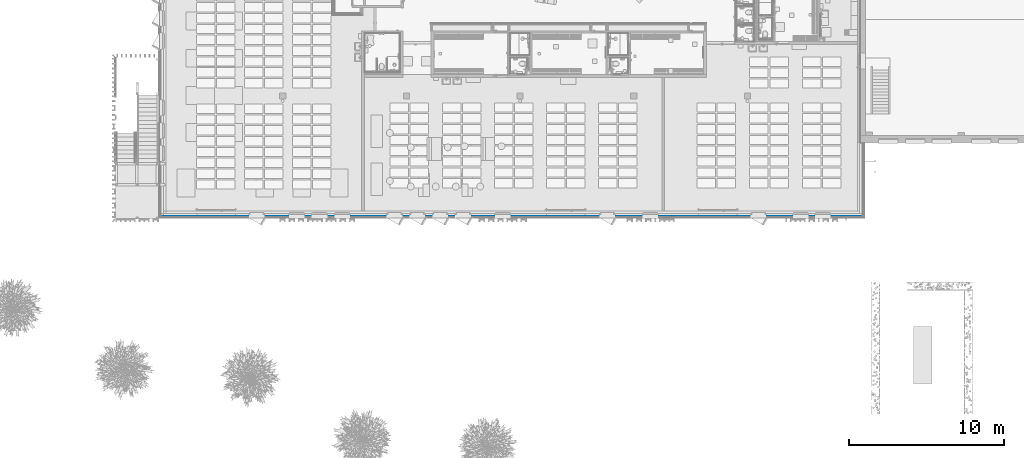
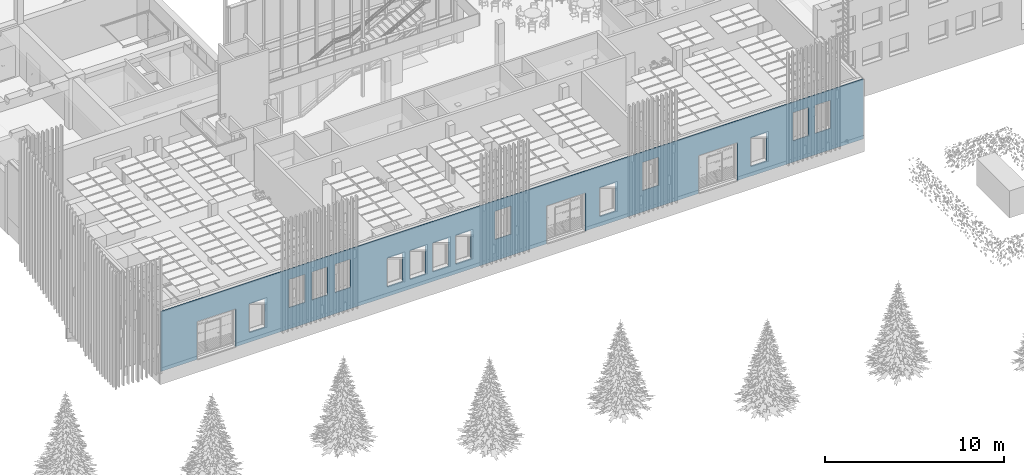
# One storey, part 178 of 301: 1 building element part, 20 openings, 1 element without a shape of its own.
"""IFC2X3 building model written with IfcOpenShell, lengths in millimetres."""

from ifc_helpers import new_model, entity, si_unit, converted_unit, derived_unit, money_unit, direction, frame, origin_with_axes, place, context, subcontext, project, spatial, faceted_brep, material, type_object, element, aggregate, save


model = new_model("IFC2X3")

# Units and contexts
model_context = context("Model", 3, precision=0.01, world=origin_with_axes(), true_north=direction((0.0, 1.0)))
body_context = subcontext(model_context, "Body", "Model", "MODEL_VIEW")
ifc_project = project(units=[si_unit("LENGTHUNIT", "METRE", prefix="MILLI"), si_unit("AREAUNIT", "SQUARE_METRE"), si_unit("VOLUMEUNIT", "CUBIC_METRE"), converted_unit("PLANEANGLEUNIT", "DEGREE", entity("IfcPlaneAngleMeasure", 0.0174532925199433), si_unit("PLANEANGLEUNIT", "RADIAN"), dimensions=[0, 0, 0, 0, 0, 0, 0]), money_unit("EUR"), converted_unit("TIMEUNIT", "Year", entity("IfcTimeMeasure", 31557600.0), si_unit("TIMEUNIT", "SECOND"), dimensions=[0, 0, 1, 0, 0, 0, 0]), si_unit("MASSUNIT", "GRAM", prefix="KILO"), si_unit("THERMODYNAMICTEMPERATUREUNIT", "DEGREE_CELSIUS"), si_unit("LUMINOUSINTENSITYUNIT", "LUMEN"), si_unit("ENERGYUNIT", "JOULE", prefix="MEGA"), derived_unit("THERMALCONDUCTANCEUNIT", [(si_unit("POWERUNIT", "WATT"), 1), (si_unit("LENGTHUNIT", "METRE"), -1), (si_unit("THERMODYNAMICTEMPERATUREUNIT", "KELVIN"), -1)]), derived_unit("SPECIFICHEATCAPACITYUNIT", [(si_unit("ENERGYUNIT", "JOULE"), 1), (si_unit("MASSUNIT", "GRAM", prefix="KILO"), -1), (si_unit("THERMODYNAMICTEMPERATUREUNIT", "KELVIN"), -1)]), derived_unit("MASSDENSITYUNIT", [(si_unit("MASSUNIT", "GRAM", prefix="KILO"), 1), (si_unit("VOLUMEUNIT", "CUBIC_METRE"), -1)])], contexts=[model_context])

# Site, building, storey
site_placement = place(None, frame((0.0, 0.0, 8650.0), z_axis=(0.0, 0.0, 1.0), x_axis=(1.0, 0.0, 0.0)))
site = spatial("IfcSite", under=ifc_project, at=site_placement, Name="43301:001:0844", CompositionType="ELEMENT")
building_placement = place(site_placement, origin_with_axes())
building = spatial("IfcBuilding", under=site, at=building_placement, Name="Kuressaare Ametikooli tuulikute mehaanikute õppekorpus", CompositionType="ELEMENT")
storey_placement = place(building_placement, origin_with_axes())
storey = spatial("IfcBuildingStorey", under=building, at=storey_placement, Name="1.korrus", CompositionType="ELEMENT", Elevation=0.0)

# Wall, openings, building element part
wall_type = type_object("IfcWallType", Name="VS1 437", PredefinedType="NOTDEFINED")
wall_placement = place(storey_placement, frame((133024.9464416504, 9123.838490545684, 0.0), z_axis=(0.0, 0.0, 1.0), x_axis=(-1.0, 0.0, 0.0)))
wall = element("IfcWall", 1, at=wall_placement, inside=storey, type_object=wall_type, Name="Sisesein")
opening_1_placement = place(wall_placement, frame((26976.99415685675, 0.0, 700.0), z_axis=(0.0, 0.0, 1.0), x_axis=(1.0, 0.0, 0.0)))
element("IfcOpeningElement", 2, at=opening_1_placement, cuts=wall, Name="A-1g", context=body_context, shape_type="Brep", body=[
    faceted_brep([(-504.9999999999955, 219.9999999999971, 0.0), (-504.9999999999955, 219.9999999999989, 1910.0), (-504.9999999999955, 437.9999999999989, 1910.0), (-504.9999999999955, 437.9999999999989, 0.0), (-504.9999999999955, -1.000000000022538, 0.0), (-504.9999999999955, -1.000000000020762, 1910.0), (504.9999999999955, 219.9999999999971, 1910.0), (504.9999999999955, 437.9999999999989, 1910.0), (504.9999999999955, -1.000000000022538, 1910.0), (504.9999999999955, 437.9999999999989, 0.0), (504.9999999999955, 219.9999999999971, 0.0), (504.9999999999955, -1.000000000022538, 0.0)], [[[0, 1, 2, 3]], [[1, 0, 4, 5]], [[6, 7, 2, 1, 5, 8]], [[7, 9, 3, 2]], [[0, 3, 9, 10, 11, 4]], [[5, 4, 11, 8]], [[6, 10, 9, 7]], [[10, 6, 8, 11]]]),
])
opening_2_placement = place(wall_placement, frame((29926.99415685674, 0.0, 700.0000000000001), z_axis=(0.0, 0.0, 1.0), x_axis=(1.0, 0.0, 0.0)))
element("IfcOpeningElement", 3, at=opening_2_placement, cuts=wall, Name="A-1g", context=body_context, shape_type="Brep", body=[
    faceted_brep([(-504.9999999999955, 219.9999999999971, 0.0), (-504.9999999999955, 219.9999999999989, 1910.0), (-504.9999999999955, 437.9999999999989, 1910.0), (-504.9999999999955, 437.9999999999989, 0.0), (-504.9999999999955, -1.000000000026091, 0.0), (-504.9999999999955, -1.000000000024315, 1910.0), (504.9999999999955, 219.9999999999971, 1910.0), (504.9999999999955, 437.9999999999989, 1910.0), (504.9999999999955, -1.000000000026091, 1910.0), (504.9999999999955, 437.9999999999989, 0.0), (504.9999999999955, 219.9999999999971, 0.0), (504.9999999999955, -1.000000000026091, 0.0)], [[[0, 1, 2, 3]], [[1, 0, 4, 5]], [[6, 7, 2, 1, 5, 8]], [[7, 9, 3, 2]], [[0, 3, 9, 10, 11, 4]], [[5, 4, 11, 8]], [[6, 10, 9, 7]], [[10, 6, 8, 11]]]),
])
opening_3_placement = place(wall_placement, frame((2241.190539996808, 0.0, 1475.000000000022), z_axis=(0.0, 0.0, 1.0), x_axis=(1.0, 0.0, 0.0)))
element("IfcOpeningElement", 4, at=opening_3_placement, cuts=wall, Name="A-1g,SE", context=body_context, shape_type="Brep", body=[
    faceted_brep([(-504.9999999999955, 220.0000000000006, 0.0), (-504.9999999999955, 220.0000000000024, 1910.0), (-504.9999999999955, 437.9999999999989, 1910.0), (-504.9999999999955, 437.9999999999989, 0.0), (-504.9999999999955, -1.000000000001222, 0.0), (-504.9999999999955, -0.9999999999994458, 1910.0), (504.9999999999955, 220.0000000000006, 1910.0), (504.9999999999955, 437.9999999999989, 1910.0), (504.9999999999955, -1.000000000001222, 1910.0), (504.9999999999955, 437.9999999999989, 0.0), (504.9999999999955, 220.0000000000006, 0.0), (504.9999999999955, -1.000000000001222, 0.0)], [[[0, 1, 2, 3]], [[1, 0, 4, 5]], [[6, 7, 2, 1, 5, 8]], [[7, 9, 3, 2]], [[0, 3, 9, 10, 11, 4]], [[5, 4, 11, 8]], [[6, 10, 9, 7]], [[10, 6, 8, 11]]]),
])
opening_4_placement = place(wall_placement, frame((13381.72835363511, 0.0, 1475.000000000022), z_axis=(0.0, 0.0, 1.0), x_axis=(1.0, 0.0, 0.0)))
element("IfcOpeningElement", 5, at=opening_4_placement, cuts=wall, Name="A-1g,SE", context=body_context, shape_type="Brep", body=[
    faceted_brep([(-504.9999999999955, 219.9999999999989, 0.0), (-504.9999999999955, 220.0000000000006, 1910.0), (-504.9999999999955, 437.9999999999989, 1910.0), (-504.9999999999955, 437.9999999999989, 0.0), (-504.9999999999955, -1.000000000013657, 0.0), (-504.9999999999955, -1.00000000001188, 1910.0), (504.9999999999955, 219.9999999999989, 1910.0), (504.9999999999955, 437.9999999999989, 1910.0), (504.9999999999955, -1.000000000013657, 1910.0), (504.9999999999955, 437.9999999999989, 0.0), (504.9999999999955, 219.9999999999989, 0.0), (504.9999999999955, -1.000000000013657, 0.0)], [[[0, 1, 2, 3]], [[1, 0, 4, 5]], [[6, 7, 2, 1, 5, 8]], [[7, 9, 3, 2]], [[0, 3, 9, 10, 11, 4]], [[5, 4, 11, 8]], [[6, 10, 9, 7]], [[10, 6, 8, 11]]]),
])
opening_5_placement = place(wall_placement, frame((25501.99415685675, 0.0, 700.0), z_axis=(0.0, 0.0, 1.0), x_axis=(1.0, 0.0, 0.0)))
element("IfcOpeningElement", 6, at=opening_5_placement, cuts=wall, Name="A-1g", context=body_context, shape_type="Brep", body=[
    faceted_brep([(-504.9999999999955, 219.9999999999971, 0.0), (-504.9999999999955, 219.9999999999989, 1910.0), (-504.9999999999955, 437.9999999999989, 1910.0), (-504.9999999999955, 437.9999999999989, 0.0), (-504.9999999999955, -1.000000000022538, 0.0), (-504.9999999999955, -1.000000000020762, 1910.0), (504.9999999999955, 219.9999999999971, 1910.0), (504.9999999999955, 437.9999999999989, 1910.0), (504.9999999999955, -1.000000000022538, 1910.0), (504.9999999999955, 437.9999999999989, 0.0), (504.9999999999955, 219.9999999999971, 0.0), (504.9999999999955, -1.000000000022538, 0.0)], [[[0, 1, 2, 3]], [[1, 0, 4, 5]], [[6, 7, 2, 1, 5, 8]], [[7, 9, 3, 2]], [[0, 3, 9, 10, 11, 4]], [[5, 4, 11, 8]], [[6, 10, 9, 7]], [[10, 6, 8, 11]]]),
])
opening_6_placement = place(wall_placement, frame((6401.877929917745, 0.0, 700.0), z_axis=(0.0, 0.0, 1.0), x_axis=(1.0, 0.0, 0.0)))
element("IfcOpeningElement", 7, at=opening_6_placement, cuts=wall, Name="A-1g", context=body_context, shape_type="Brep", body=[
    faceted_brep([(-504.9999999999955, 220.0000000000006, 0.0), (-504.9999999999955, 220.0000000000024, 1910.0), (-504.9999999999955, 437.9999999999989, 1910.0), (-504.9999999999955, 437.9999999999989, 0.0), (-504.9999999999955, -1.000000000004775, 0.0), (-504.9999999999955, -1.000000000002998, 1910.0), (504.9999999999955, 220.0000000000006, 1910.0), (504.9999999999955, 437.9999999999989, 1910.0), (504.9999999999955, -1.000000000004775, 1910.0), (504.9999999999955, 437.9999999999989, 0.0), (504.9999999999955, 220.0000000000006, 0.0), (504.9999999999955, -1.000000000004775, 0.0)], [[[0, 1, 2, 3]], [[1, 0, 4, 5]], [[6, 7, 2, 1, 5, 8]], [[7, 9, 3, 2]], [[0, 3, 9, 10, 11, 4]], [[5, 4, 11, 8]], [[6, 10, 9, 7]], [[10, 6, 8, 11]]]),
])
opening_7_placement = place(wall_placement, frame((22926.99691245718, 0.0, 1475.000000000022), z_axis=(0.0, 0.0, 1.0), x_axis=(1.0, 0.0, 0.0)))
element("IfcOpeningElement", 8, at=opening_7_placement, cuts=wall, Name="A-1g,SE", context=body_context, shape_type="Brep", body=[
    faceted_brep([(-504.9999999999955, 219.9999999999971, 0.0), (-504.9999999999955, 219.9999999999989, 1910.0), (-504.9999999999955, 437.9999999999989, 1910.0), (-504.9999999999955, 437.9999999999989, 0.0), (-504.9999999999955, -1.000000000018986, 0.0), (-504.9999999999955, -1.000000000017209, 1910.0), (504.9999999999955, 219.9999999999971, 1910.0), (504.9999999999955, 437.9999999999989, 1910.0), (504.9999999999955, -1.000000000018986, 1910.0), (504.9999999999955, 437.9999999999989, 0.0), (504.9999999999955, 219.9999999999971, 0.0), (504.9999999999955, -1.000000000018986, 0.0)], [[[0, 1, 2, 3]], [[1, 0, 4, 5]], [[6, 7, 2, 1, 5, 8]], [[7, 9, 3, 2]], [[0, 3, 9, 10, 11, 4]], [[5, 4, 11, 8]], [[6, 10, 9, 7]], [[10, 6, 8, 11]]]),
])
opening_8_placement = place(wall_placement, frame((38843.87792991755, 0.0, 700.0), z_axis=(0.0, 0.0, 1.0), x_axis=(1.0, 0.0, 0.0)))
element("IfcOpeningElement", 9, at=opening_8_placement, cuts=wall, Name="A-1g", context=body_context, shape_type="Brep", body=[
    faceted_brep([(-504.9999999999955, 219.9999999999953, 0.0), (-504.9999999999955, 219.9999999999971, 1910.0), (-504.9999999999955, 437.9999999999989, 1910.0), (-504.9999999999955, 437.9999999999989, 0.0), (-504.9999999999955, -1.000000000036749, 0.0), (-504.9999999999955, -1.000000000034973, 1910.0), (504.9999999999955, 219.9999999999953, 1910.0), (504.9999999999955, 437.9999999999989, 1910.0), (504.9999999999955, -1.000000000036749, 1910.0), (504.9999999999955, 437.9999999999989, 0.0), (504.9999999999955, 219.9999999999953, 0.0), (504.9999999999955, -1.000000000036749, 0.0)], [[[0, 1, 2, 3]], [[1, 0, 4, 5]], [[6, 7, 2, 1, 5, 8]], [[7, 9, 3, 2]], [[0, 3, 9, 10, 11, 4]], [[5, 4, 11, 8]], [[6, 10, 9, 7]], [[10, 6, 8, 11]]]),
])
opening_9_placement = place(wall_placement, frame((16176.99691245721, 0.0, 700.0), z_axis=(0.0, 0.0, 1.0), x_axis=(1.0, 0.0, 0.0)))
element("IfcOpeningElement", 10, at=opening_9_placement, cuts=wall, Name="A-1g", context=body_context, shape_type="Brep", body=[
    faceted_brep([(-504.9999999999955, 219.9999999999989, 0.0), (-504.9999999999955, 220.0000000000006, 1910.0), (-504.9999999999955, 437.9999999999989, 1910.0), (-504.9999999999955, 437.9999999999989, 0.0), (-504.9999999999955, -1.000000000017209, 0.0), (-504.9999999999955, -1.000000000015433, 1910.0), (504.9999999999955, 219.9999999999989, 1910.0), (504.9999999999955, 437.9999999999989, 1910.0), (504.9999999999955, -1.000000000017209, 1910.0), (504.9999999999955, 437.9999999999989, 0.0), (504.9999999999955, 219.9999999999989, 0.0), (504.9999999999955, -1.000000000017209, 0.0)], [[[0, 1, 2, 3]], [[1, 0, 4, 5]], [[6, 7, 2, 1, 5, 8]], [[7, 9, 3, 2]], [[0, 3, 9, 10, 11, 4]], [[5, 4, 11, 8]], [[6, 10, 9, 7]], [[10, 6, 8, 11]]]),
])
opening_10_placement = place(wall_placement, frame((3661.862783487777, 0.0, 1475.000000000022), z_axis=(0.0, 0.0, 1.0), x_axis=(1.0, 0.0, 0.0)))
element("IfcOpeningElement", 11, at=opening_10_placement, cuts=wall, Name="A-1g,SE", context=body_context, shape_type="Brep", body=[
    faceted_brep([(-504.9999999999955, 220.0000000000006, 0.0), (-504.9999999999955, 220.0000000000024, 1910.0), (-504.9999999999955, 437.9999999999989, 1910.0), (-504.9999999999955, 437.9999999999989, 0.0), (-504.9999999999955, -1.000000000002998, 0.0), (-504.9999999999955, -1.000000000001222, 1910.0), (504.9999999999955, 220.0000000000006, 1910.0), (504.9999999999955, 437.9999999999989, 1910.0), (504.9999999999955, -1.000000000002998, 1910.0), (504.9999999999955, 437.9999999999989, 0.0), (504.9999999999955, 220.0000000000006, 0.0), (504.9999999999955, -1.000000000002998, 0.0)], [[[0, 1, 2, 3]], [[1, 0, 4, 5]], [[6, 7, 2, 1, 5, 8]], [[7, 9, 3, 2]], [[0, 3, 9, 10, 11, 4]], [[5, 4, 11, 8]], [[6, 10, 9, 7]], [[10, 6, 8, 11]]]),
])
opening_11_placement = place(wall_placement, frame((36251.877858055, 0.0, 1475.000000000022), z_axis=(0.0, 0.0, 1.0), x_axis=(1.0, 0.0, 0.0)))
element("IfcOpeningElement", 12, at=opening_11_placement, cuts=wall, Name="A-1g,SE", context=body_context, shape_type="Brep", body=[
    faceted_brep([(-504.9999999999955, 219.9999999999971, 0.0), (-504.9999999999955, 219.9999999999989, 1910.0), (-504.9999999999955, 437.9999999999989, 1910.0), (-504.9999999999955, 437.9999999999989, 0.0), (-504.9999999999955, -1.00000000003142, 0.0), (-504.9999999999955, -1.000000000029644, 1910.0), (504.9999999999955, 219.9999999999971, 1910.0), (504.9999999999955, 437.9999999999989, 1910.0), (504.9999999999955, -1.00000000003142, 1910.0), (504.9999999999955, 437.9999999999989, 0.0), (504.9999999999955, 219.9999999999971, 0.0), (504.9999999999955, -1.00000000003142, 0.0)], [[[0, 1, 2, 3]], [[1, 0, 4, 5]], [[6, 7, 2, 1, 5, 8]], [[7, 9, 3, 2]], [[0, 3, 9, 10, 11, 4]], [[5, 4, 11, 8]], [[6, 10, 9, 7]], [[10, 6, 8, 11]]]),
])
opening_12_placement = place(wall_placement, frame((33301.87785805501, 0.0, 1475.000000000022), z_axis=(0.0, 0.0, 1.0), x_axis=(1.0, 0.0, 0.0)))
element("IfcOpeningElement", 13, at=opening_12_placement, cuts=wall, Name="A-1g,SE", context=body_context, shape_type="Brep", body=[
    faceted_brep([(-504.9999999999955, 219.9999999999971, 0.0), (-504.9999999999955, 219.9999999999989, 1910.0), (-504.9999999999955, 437.9999999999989, 1910.0), (-504.9999999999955, 437.9999999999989, 0.0), (-504.9999999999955, -1.000000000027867, 0.0), (-504.9999999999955, -1.000000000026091, 1910.0), (504.9999999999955, 219.9999999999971, 1910.0), (504.9999999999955, 437.9999999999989, 1910.0), (504.9999999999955, -1.000000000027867, 1910.0), (504.9999999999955, 437.9999999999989, 0.0), (504.9999999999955, 219.9999999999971, 0.0), (504.9999999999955, -1.000000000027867, 0.0)], [[[0, 1, 2, 3]], [[1, 0, 4, 5]], [[6, 7, 2, 1, 5, 8]], [[7, 9, 3, 2]], [[0, 3, 9, 10, 11, 4]], [[5, 4, 11, 8]], [[6, 10, 9, 7]], [[10, 6, 8, 11]]]),
])
opening_13_placement = place(wall_placement, frame((34776.877858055, 0.0, 1475.000000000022), z_axis=(0.0, 0.0, 1.0), x_axis=(1.0, 0.0, 0.0)))
element("IfcOpeningElement", 14, at=opening_13_placement, cuts=wall, Name="A-1g,SE", context=body_context, shape_type="Brep", body=[
    faceted_brep([(-504.9999999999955, 219.9999999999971, 0.0), (-504.9999999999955, 219.9999999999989, 1910.0), (-504.9999999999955, 437.9999999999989, 1910.0), (-504.9999999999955, 437.9999999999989, 0.0), (-504.9999999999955, -1.000000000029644, 0.0), (-504.9999999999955, -1.000000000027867, 1910.0), (504.9999999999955, 219.9999999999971, 1910.0), (504.9999999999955, 437.9999999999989, 1910.0), (504.9999999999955, -1.000000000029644, 1910.0), (504.9999999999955, 437.9999999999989, 0.0), (504.9999999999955, 219.9999999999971, 0.0), (504.9999999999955, -1.000000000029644, 0.0)], [[[0, 1, 2, 3]], [[1, 0, 4, 5]], [[6, 7, 2, 1, 5, 8]], [[7, 9, 3, 2]], [[0, 3, 9, 10, 11, 4]], [[5, 4, 11, 8]], [[6, 10, 9, 7]], [[10, 6, 8, 11]]]),
])
opening_14_placement = place(wall_placement, frame((18848.67342500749, 0.0, 0.0), z_axis=(0.0, 0.0, 1.0), x_axis=(1.0, 0.0, 0.0)))
element("IfcOpeningElement", 15, at=opening_14_placement, cuts=wall, Name="Ava seinas", context=body_context, shape_type="Brep", body=[
    faceted_brep([(-1219.999999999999, 139.9999999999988, 0.0), (-1219.999999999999, 140.0000000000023, 2570.0), (-1219.999999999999, 438.0000000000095, 2570.0), (-1219.999999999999, 438.0000000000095, 0.0), (1219.999999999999, 140.0000000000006, 2570.0), (-1250.0, 139.9999999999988, 0.0), (-1250.0, 140.0000000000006, 2600.0), (1250.0, 139.9999999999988, 2600.0), (1250.0, 139.9999999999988, 0.0), (1219.999999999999, 139.9999999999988, 0.0), (1219.999999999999, 438.0000000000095, 2570.0), (1219.999999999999, 438.0000000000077, 0.0), (1250.0, -1.00000000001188, 0.0), (-1250.0, -1.00000000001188, 0.0), (-1250.0, -1.000000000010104, 2600.0), (1250.0, -1.00000000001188, 2600.0)], [[[0, 1, 2, 3]], [[4, 1, 0, 5, 6, 7, 8, 9]], [[1, 4, 10, 2]], [[10, 11, 3, 2]], [[9, 0, 3, 11]], [[0, 9, 8, 12, 13, 5]], [[6, 5, 13, 14]], [[7, 6, 14, 15]], [[8, 7, 15, 12]], [[4, 9, 11, 10]], [[14, 13, 12, 15]]]),
])
opening_15_placement = place(wall_placement, frame((41461.22668595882, 0.0, 0.0), z_axis=(0.0, 0.0, 1.0), x_axis=(1.0, 0.0, 0.0)))
element("IfcOpeningElement", 16, at=opening_15_placement, cuts=wall, Name="Ava seinas", context=body_context, shape_type="Brep", body=[
    faceted_brep([(-1219.999999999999, 139.9999999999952, 0.0), (-1219.999999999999, 139.999999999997, 2570.0), (-1219.999999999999, 438.0000000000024, 2570.0), (-1219.999999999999, 438.0000000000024, 0.0), (1219.999999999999, 139.9999999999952, 2570.0), (-1250.0, 139.9999999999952, 0.0), (-1250.0, 139.999999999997, 2600.0), (1250.0, 139.9999999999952, 2600.0), (1250.0, 139.9999999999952, 0.0), (1219.999999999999, 139.9999999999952, 0.0), (1219.999999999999, 438.0000000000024, 2570.0), (1219.999999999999, 438.0000000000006, 0.0), (1250.0, -1.000000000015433, 0.0), (-1250.0, -1.000000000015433, 0.0), (-1250.0, -1.000000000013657, 2600.0), (1250.0, -1.000000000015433, 2600.0)], [[[0, 1, 2, 3]], [[4, 1, 0, 5, 6, 7, 8, 9]], [[1, 4, 10, 2]], [[10, 11, 3, 2]], [[9, 0, 3, 11]], [[0, 9, 8, 12, 13, 5]], [[6, 5, 13, 14]], [[7, 6, 14, 15]], [[8, 7, 15, 12]], [[4, 9, 11, 10]], [[14, 13, 12, 15]]]),
])
opening_16_placement = place(wall_placement, frame((18848.67342500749, 0.0, 0.0), z_axis=(0.0, 0.0, 1.0), x_axis=(1.0, 0.0, 0.0)))
element("IfcOpeningElement", 17, at=opening_16_placement, cuts=wall, Name="TÕU25x26", context=body_context, shape_type="Brep", body=[
    faceted_brep([(-1250.0, 436.9999999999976, 0.0), (-1250.0, 436.9999999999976, 2600.0), (-1250.0, 437.9999999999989, 2600.0), (-1250.0, 437.9999999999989, 0.0), (-1250.0, -0.9999999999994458, 0.0), (-1250.0, -0.9999999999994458, 2600.0), (1250.0, 436.9999999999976, 2600.0), (1250.0, 437.9999999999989, 2600.0), (1250.0, 437.9999999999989, 0.0), (1250.0, 436.9999999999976, 0.0), (1250.0, -0.9999999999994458, 0.0), (1250.0, -0.9999999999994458, 2600.0)], [[[0, 1, 2, 3]], [[1, 0, 4, 5]], [[1, 6, 7, 2]], [[8, 3, 2, 7]], [[9, 0, 3, 8]], [[0, 9, 10, 4]], [[5, 4, 10, 11]], [[6, 1, 5, 11]], [[6, 9, 8, 7]], [[9, 6, 11, 10]]]),
])
opening_17_placement = place(wall_placement, frame((9019.226685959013, 0.0, 0.0), z_axis=(0.0, 0.0, 1.0), x_axis=(1.0, 0.0, 0.0)))
element("IfcOpeningElement", 18, at=opening_17_placement, cuts=wall, Name="Ava seinas", context=body_context, shape_type="Brep", body=[
    faceted_brep([(-1219.999999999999, 139.9999999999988, 0.0), (-1219.999999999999, 140.0000000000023, 2570.0), (-1219.999999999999, 438.0000000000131, 2570.0), (-1219.999999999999, 438.0000000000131, 0.0), (1219.999999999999, 140.0000000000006, 2570.0), (-1250.0, 139.9999999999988, 0.0), (-1250.0, 140.0000000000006, 2600.0), (1250.0, 139.9999999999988, 2600.0), (1250.0, 139.9999999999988, 0.0), (1219.999999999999, 139.9999999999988, 0.0), (1219.999999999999, 438.0000000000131, 2570.0), (1219.999999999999, 438.0000000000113, 0.0), (1250.0, -1.000000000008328, 0.0), (-1250.0, -1.000000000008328, 0.0), (-1250.0, -1.000000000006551, 2600.0), (1250.0, -1.000000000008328, 2600.0)], [[[0, 1, 2, 3]], [[4, 1, 0, 5, 6, 7, 8, 9]], [[1, 4, 10, 2]], [[10, 11, 3, 2]], [[9, 0, 3, 11]], [[0, 9, 8, 12, 13, 5]], [[6, 5, 13, 14]], [[7, 6, 14, 15]], [[8, 7, 15, 12]], [[4, 9, 11, 10]], [[14, 13, 12, 15]]]),
])
opening_18_placement = place(wall_placement, frame((28451.99415685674, 0.0, 700.0), z_axis=(0.0, 0.0, 1.0), x_axis=(1.0, 0.0, 0.0)))
element("IfcOpeningElement", 19, at=opening_18_placement, cuts=wall, Name="A-1g", context=body_context, shape_type="Brep", body=[
    faceted_brep([(-504.9999999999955, 219.9999999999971, 0.0), (-504.9999999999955, 219.9999999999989, 1910.0), (-504.9999999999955, 437.9999999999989, 1910.0), (-504.9999999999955, 437.9999999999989, 0.0), (-504.9999999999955, -1.000000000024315, 0.0), (-504.9999999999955, -1.000000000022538, 1910.0), (504.9999999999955, 219.9999999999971, 1910.0), (504.9999999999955, 437.9999999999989, 1910.0), (504.9999999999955, -1.000000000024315, 1910.0), (504.9999999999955, 437.9999999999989, 0.0), (504.9999999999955, 219.9999999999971, 0.0), (504.9999999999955, -1.000000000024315, 0.0)], [[[0, 1, 2, 3]], [[1, 0, 4, 5]], [[6, 7, 2, 1, 5, 8]], [[7, 9, 3, 2]], [[0, 3, 9, 10, 11, 4]], [[5, 4, 11, 8]], [[6, 10, 9, 7]], [[10, 6, 8, 11]]]),
])
opening_19_placement = place(wall_placement, frame((9019.226685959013, 0.0, 0.0), z_axis=(0.0, 0.0, 1.0), x_axis=(1.0, 0.0, 0.0)))
element("IfcOpeningElement", 20, at=opening_19_placement, cuts=wall, Name="TÕU25x26", context=body_context, shape_type="Brep", body=[
    faceted_brep([(-1250.0, 436.9999999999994, 0.0), (-1250.0, 436.9999999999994, 2600.0), (-1250.0, 438.0000000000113, 2600.0), (-1250.0, 438.0000000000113, 0.0), (-1250.0, -1.000000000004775, 0.0), (-1250.0, -1.000000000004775, 2600.0), (1250.0, 436.9999999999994, 2600.0), (1250.0, 438.0000000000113, 2600.0), (1250.0, 438.0000000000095, 0.0), (1250.0, 436.9999999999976, 0.0), (1250.0, -1.000000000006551, 0.0), (1250.0, -1.000000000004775, 2600.0)], [[[0, 1, 2, 3]], [[1, 0, 4, 5]], [[1, 6, 7, 2]], [[8, 3, 2, 7]], [[9, 0, 3, 8]], [[0, 9, 10, 4]], [[5, 4, 10, 11]], [[6, 1, 5, 11]], [[6, 9, 8, 7]], [[9, 6, 11, 10]]]),
])
opening_20_placement = place(wall_placement, frame((41461.22668595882, 0.0, 0.0), z_axis=(0.0, 0.0, 1.0), x_axis=(1.0, 0.0, 0.0)))
element("IfcOpeningElement", 21, at=opening_20_placement, cuts=wall, Name="TÕU25x26", context=body_context, shape_type="Brep", body=[
    faceted_brep([(-1250.0, 436.9999999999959, 0.0), (-1250.0, 436.9999999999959, 2600.0), (-1250.0, 438.0000000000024, 2600.0), (-1250.0, 438.0000000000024, 0.0), (-1250.0, -1.000000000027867, 0.0), (-1250.0, -1.000000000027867, 2600.0), (1250.0, 436.9999999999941, 2600.0), (1250.0, 438.0000000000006, 2600.0), (1250.0, 438.0000000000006, 0.0), (1250.0, 436.9999999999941, 0.0), (1250.0, -1.000000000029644, 0.0), (1250.0, -1.000000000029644, 2600.0)], [[[0, 1, 2, 3]], [[1, 0, 4, 5]], [[1, 6, 7, 2]], [[8, 3, 2, 7]], [[9, 0, 3, 8]], [[0, 9, 10, 4]], [[5, 4, 10, 11]], [[6, 1, 5, 11]], [[6, 9, 8, 7]], [[9, 6, 11, 10]]]),
])
ifc_material = material(Name="Air Space - Frame")
building_element_part_placement = place(wall_placement, origin_with_axes())
building_element_part = element("IfcBuildingElementPart", 22, at=building_element_part_placement, material=ifc_material, Name="Air Space - Frame", context=body_context, shape_type="Brep", body=[
    faceted_brep([(42711.22668595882, 344.9999999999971, 2600.000000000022), (42711.22668595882, 344.9999999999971, 0.0), (45051.71979646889, 344.9999999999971, 0.0), (45051.71979646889, 344.9999999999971, 4100.0), (-389.00000000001, 345.0000000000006, 4100.0), (-389.00000000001, 345.0000000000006, 0.0), (7769.226685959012, 345.0000000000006, 0.0), (7769.226685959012, 344.9999999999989, 2600.000000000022), (10269.22668595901, 344.9999999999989, 2600.000000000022), (10269.22668595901, 344.9999999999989, 0.0), (17598.67342500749, 344.9999999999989, 0.0), (17598.67342500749, 344.9999999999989, 2600.000000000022), (20098.67342500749, 344.9999999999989, 2600.000000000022), (20098.67342500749, 344.9999999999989, 0.0), (40211.22668595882, 344.9999999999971, 0.0), (40211.22668595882, 344.9999999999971, 2600.000000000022), (27481.99415685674, 344.9999999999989, 2610.0), (27481.99415685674, 344.9999999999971, 700.0), (26471.99415685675, 344.9999999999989, 700.0), (26471.99415685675, 344.9999999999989, 2610.0), (29421.99415685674, 344.9999999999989, 2610.0), (30431.99415685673, 344.9999999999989, 2610.0), (30431.99415685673, 344.9999999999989, 700.0000000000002), (29421.99415685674, 344.9999999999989, 700.0000000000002), (24996.99415685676, 344.9999999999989, 700.0), (24996.99415685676, 344.9999999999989, 2610.0), (26006.99415685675, 344.9999999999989, 2610.0), (26006.99415685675, 344.9999999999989, 700.0), (2746.190539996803, 345.0000000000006, 1475.000000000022), (1736.190539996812, 345.0000000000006, 1475.000000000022), (1736.190539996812, 345.0000000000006, 3385.000000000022), (2746.190539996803, 345.0000000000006, 3385.000000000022), (13886.72835363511, 344.9999999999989, 3385.000000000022), (13886.72835363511, 344.9999999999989, 1475.000000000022), (12876.72835363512, 344.9999999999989, 1475.000000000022), (12876.72835363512, 344.9999999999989, 3385.000000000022), (22421.99691245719, 344.9999999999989, 3385.000000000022), (23431.99691245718, 344.9999999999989, 3385.000000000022), (23431.99691245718, 344.9999999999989, 1475.000000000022), (22421.99691245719, 344.9999999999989, 1475.000000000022), (5896.877929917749, 345.0000000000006, 700.0), (5896.877929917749, 345.0000000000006, 2610.0), (6906.87792991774, 345.0000000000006, 2610.0), (6906.87792991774, 345.0000000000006, 700.0), (16681.99691245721, 344.9999999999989, 700.0), (15671.99691245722, 344.9999999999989, 700.0), (15671.99691245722, 344.9999999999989, 2610.0), (16681.99691245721, 344.9999999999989, 2610.0), (4166.862783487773, 344.9999999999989, 3385.000000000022), (4166.862783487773, 344.9999999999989, 1475.000000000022), (3156.862783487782, 344.9999999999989, 1475.000000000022), (3156.862783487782, 344.9999999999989, 3385.000000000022), (38338.87792991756, 344.9999999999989, 2610.0), (39348.87792991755, 344.9999999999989, 2610.0), (39348.87792991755, 344.9999999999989, 700.0), (38338.87792991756, 344.9999999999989, 700.0), (32796.87785805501, 344.9999999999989, 1475.000000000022), (32796.87785805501, 344.9999999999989, 3385.000000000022), (33806.87785805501, 344.9999999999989, 3385.000000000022), (33806.87785805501, 344.9999999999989, 1475.000000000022), (35281.877858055, 344.9999999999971, 1475.000000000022), (34271.87785805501, 344.9999999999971, 1475.000000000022), (34271.87785805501, 344.9999999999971, 3385.000000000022), (35281.877858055, 344.9999999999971, 3385.000000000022), (36756.87785805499, 344.9999999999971, 3385.000000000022), (36756.87785805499, 344.9999999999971, 1475.000000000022), (35746.877858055, 344.9999999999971, 1475.000000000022), (35746.877858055, 344.9999999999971, 3385.000000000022), (28956.99415685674, 344.9999999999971, 2610.0), (28956.99415685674, 344.9999999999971, 700.0), (27946.99415685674, 344.9999999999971, 700.0), (27946.99415685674, 344.9999999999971, 2610.0), (42711.22668595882, 388.9999999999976, 2600.000000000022), (42711.22668595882, 388.9999999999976, 0.0), (45051.71979646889, 388.9999999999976, 0.0), (45051.71979646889, 388.9999999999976, 4100.0), (-389.00000000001, 389.0000000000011, 4100.0), (-389.00000000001, 388.9999999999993, 0.0), (7769.226685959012, 388.9999999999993, 0.0), (7769.226685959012, 388.9999999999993, 2600.000000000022), (10269.22668595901, 388.9999999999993, 2600.000000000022), (10269.22668595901, 388.9999999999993, 0.0), (17598.67342500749, 388.9999999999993, 0.0), (17598.67342500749, 388.9999999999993, 2600.000000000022), (20098.67342500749, 388.9999999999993, 2600.000000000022), (20098.67342500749, 388.9999999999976, 0.0), (40211.22668595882, 388.9999999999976, 0.0), (40211.22668595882, 388.9999999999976, 2600.000000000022), (27481.99415685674, 388.9999999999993, 700.0), (27481.99415685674, 388.9999999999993, 2610.0), (26471.99415685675, 388.9999999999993, 700.0), (26471.99415685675, 388.9999999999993, 2610.0), (29421.99415685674, 388.9999999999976, 2610.0), (30431.99415685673, 388.9999999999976, 2610.0), (30431.99415685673, 388.9999999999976, 700.0000000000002), (29421.99415685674, 388.9999999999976, 700.0000000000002), (24996.99415685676, 388.9999999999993, 700.0), (24996.99415685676, 388.9999999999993, 2610.0), (26006.99415685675, 388.9999999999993, 2610.0), (26006.99415685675, 388.9999999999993, 700.0), (2746.190539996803, 388.9999999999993, 1475.000000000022), (1736.190539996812, 388.9999999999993, 1475.000000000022), (1736.190539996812, 388.9999999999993, 3385.000000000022), (2746.190539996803, 388.9999999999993, 3385.000000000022), (13886.72835363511, 388.9999999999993, 1475.000000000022), (13886.72835363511, 388.9999999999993, 3385.000000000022), (12876.72835363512, 388.9999999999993, 1475.000000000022), (12876.72835363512, 388.9999999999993, 3385.000000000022), (22421.99691245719, 388.9999999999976, 3385.000000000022), (23431.99691245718, 388.9999999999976, 3385.000000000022), (23431.99691245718, 388.9999999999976, 1475.000000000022), (22421.99691245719, 388.9999999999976, 1475.000000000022), (5896.877929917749, 389.0000000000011, 700.0), (5896.877929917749, 389.0000000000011, 2610.0), (6906.87792991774, 389.0000000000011, 2610.0), (6906.87792991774, 389.0000000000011, 700.0), (16681.99691245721, 388.9999999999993, 700.0), (15671.99691245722, 388.9999999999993, 700.0), (15671.99691245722, 388.9999999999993, 2610.0), (16681.99691245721, 388.9999999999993, 2610.0), (4166.862783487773, 388.9999999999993, 1475.000000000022), (4166.862783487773, 389.0000000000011, 3385.000000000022), (3156.862783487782, 388.9999999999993, 1475.000000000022), (3156.862783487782, 389.0000000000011, 3385.000000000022), (38338.87792991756, 388.9999999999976, 2610.0), (39348.87792991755, 388.9999999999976, 2610.0), (39348.87792991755, 388.9999999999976, 700.0), (38338.87792991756, 388.9999999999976, 700.0), (32796.87785805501, 388.9999999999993, 1475.000000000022), (32796.87785805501, 388.9999999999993, 3385.000000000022), (33806.87785805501, 388.9999999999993, 3385.000000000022), (33806.87785805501, 388.9999999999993, 1475.000000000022), (35281.877858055, 388.9999999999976, 1475.000000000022), (34271.87785805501, 388.9999999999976, 1475.000000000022), (34271.87785805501, 388.9999999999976, 3385.000000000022), (35281.877858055, 388.9999999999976, 3385.000000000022), (36756.87785805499, 388.9999999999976, 1475.000000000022), (36756.87785805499, 388.9999999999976, 3385.000000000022), (35746.877858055, 388.9999999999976, 1475.000000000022), (35746.877858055, 388.9999999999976, 3385.000000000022), (28956.99415685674, 388.9999999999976, 700.0), (28956.99415685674, 388.9999999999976, 2610.0), (27946.99415685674, 388.9999999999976, 700.0), (27946.99415685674, 388.9999999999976, 2610.0)], [[[0, 1, 2, 3, 4, 5, 6, 7, 8, 9, 10, 11, 12, 13, 14, 15], [16, 17, 18, 19], [20, 21, 22, 23], [24, 25, 26, 27], [28, 29, 30, 31], [32, 33, 34, 35], [36, 37, 38, 39], [40, 41, 42, 43], [44, 45, 46, 47], [48, 49, 50, 51], [52, 53, 54, 55], [56, 57, 58, 59], [60, 61, 62, 63], [64, 65, 66, 67], [68, 69, 70, 71]], [[1, 0, 72, 73]], [[1, 73, 74, 2]], [[3, 2, 74, 75]], [[75, 76, 4, 3]], [[4, 76, 77, 5]], [[6, 5, 77, 78]], [[6, 78, 79, 7]], [[7, 79, 80, 8]], [[8, 80, 81, 9]], [[81, 82, 10, 9]], [[82, 83, 11, 10]], [[83, 84, 12, 11]], [[84, 85, 13, 12]], [[86, 14, 13, 85]], [[15, 14, 86, 87]], [[0, 15, 87, 72]], [[88, 17, 16, 89]], [[90, 18, 17, 88]], [[91, 19, 18, 90]], [[89, 16, 19, 91]], [[92, 93, 21, 20]], [[93, 94, 22, 21]], [[94, 95, 23, 22]], [[95, 92, 20, 23]], [[24, 96, 97, 25]], [[25, 97, 98, 26]], [[26, 98, 99, 27]], [[27, 99, 96, 24]], [[29, 28, 100, 101]], [[30, 29, 101, 102]], [[31, 30, 102, 103]], [[28, 31, 103, 100]], [[104, 33, 32, 105]], [[106, 34, 33, 104]], [[107, 35, 34, 106]], [[105, 32, 35, 107]], [[108, 109, 37, 36]], [[109, 110, 38, 37]], [[110, 111, 39, 38]], [[111, 108, 36, 39]], [[40, 112, 113, 41]], [[41, 113, 114, 42]], [[42, 114, 115, 43]], [[43, 115, 112, 40]], [[45, 44, 116, 117]], [[46, 45, 117, 118]], [[47, 46, 118, 119]], [[44, 47, 119, 116]], [[120, 49, 48, 121]], [[122, 50, 49, 120]], [[123, 51, 50, 122]], [[121, 48, 51, 123]], [[124, 125, 53, 52]], [[125, 126, 54, 53]], [[126, 127, 55, 54]], [[127, 124, 52, 55]], [[56, 128, 129, 57]], [[57, 129, 130, 58]], [[58, 130, 131, 59]], [[59, 131, 128, 56]], [[61, 60, 132, 133]], [[62, 61, 133, 134]], [[63, 62, 134, 135]], [[60, 63, 135, 132]], [[136, 65, 64, 137]], [[138, 66, 65, 136]], [[139, 67, 66, 138]], [[137, 64, 67, 139]], [[140, 69, 68, 141]], [[142, 70, 69, 140]], [[143, 71, 70, 142]], [[141, 68, 71, 143]], [[87, 86, 85, 84, 83, 82, 81, 80, 79, 78, 77, 76, 75, 74, 73, 72], [90, 88, 89, 91], [92, 95, 94, 93], [98, 97, 96, 99], [100, 103, 102, 101], [106, 104, 105, 107], [108, 111, 110, 109], [114, 113, 112, 115], [116, 119, 118, 117], [122, 120, 121, 123], [124, 127, 126, 125], [130, 129, 128, 131], [132, 135, 134, 133], [138, 136, 137, 139], [142, 140, 141, 143]]]),
])
aggregate(wall, [building_element_part])

save(model, "model.ifc")
